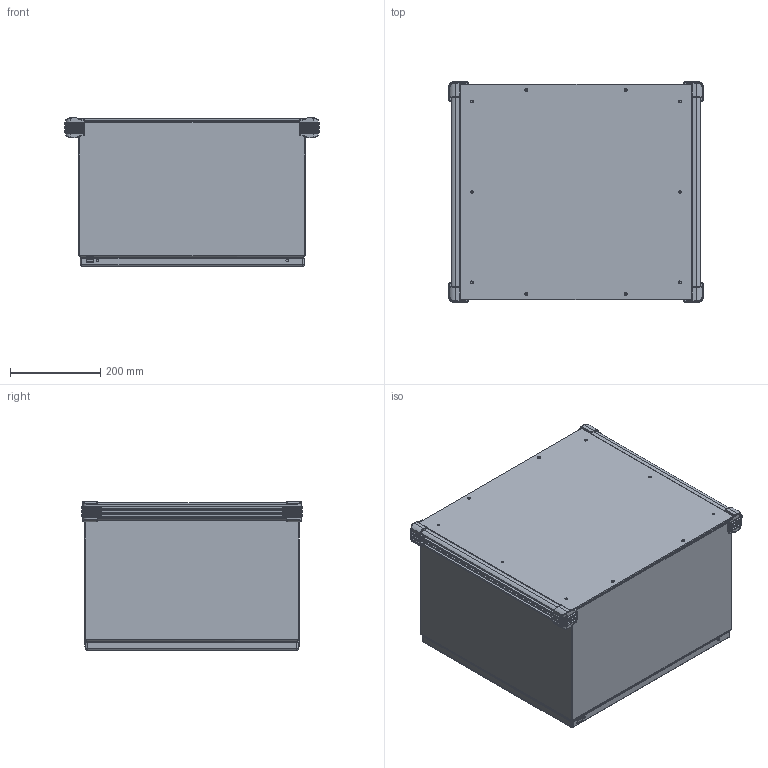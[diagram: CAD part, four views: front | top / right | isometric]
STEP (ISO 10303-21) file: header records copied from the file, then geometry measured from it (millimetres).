
FILE_DESCRIPTION (( 'STEP AP203' ), '1' );
FILE_NAME ('cp475030.STEP', '2012-06-08T18:27:47', ( 'User' ), ( 'Pentair Inc' ), 'SwSTEP 2.0', 'SolidWorks 2010', '' );
FILE_SCHEMA (( 'CONFIG_CONTROL_DESIGN' ));
Length unit declared in the file: inch
Products named in the file (39): 87543027; 89076399; 89076193; 89056623; 87789742_ASSEMBLED; 89061402; 87792578; 87792576; 99416066; 87929507; 87929767; 87929769_Installed on Pin; cp475030; 89061131; 87798766_default; 99401225_Config-Drawing; 87938525_assy; 87938549_fip; 87938501; 87931362_87931362; 99401225; 87938564_87926013; 87921906_After Weld; 64101001; 64201001; 87541994_Installed Height; 87541995; 64202001; 64210001; 64203001; 87927840_87927840; 87932903; 64138001; 89061095; 87789223; 87541671_87541671; 87789176; 87799864; 87789150
Assembly tree (78 placements, depth 4):
  cp475030
    87792578  x6
    99416066  x6
    89061131
      99401225_Config-Drawing  x3
      87798766_default
    87789176  x2
    87543027  x2
    87789742_ASSEMBLED
      89061402  x2
    87792576  x6
    87799864
    89076399  x2
      89056623
      89076193
    87789150  x4
    87929507  x2
      87929769_Installed on Pin
      87929767
    87938525_assy
      64138001  x2
      87932903  x2
      87938549_fip
        87921906_After Weld  x4
        87938501
        87931362_87931362  x2
        99401225
        87938564_87926013
      64101001
        87927840_87927840
        64201001
        87541994_Installed Height
        64202001
        87541995
        64210001
        64203001
    89061095
      87541671_87541671  x10
      87789223
Bounding box: 564.31 x 488.87 x 329.29 mm (x, y, z)
Volume: 3463159.5 mm3; surface area: 3104979.3 mm2
Topology: 73 solids, 73 shells, 4486 faces, 11297 edges, 6938 vertices
Faces by surface type: plane 1839, cylinder 1483, bspline 444, torus 374, cone 294, sphere 52
Entity records: 72502 total; most frequent: CARTESIAN_POINT 21604, ORIENTED_EDGE 9736, DIRECTION 9261, EDGE_CURVE 4868, AXIS2_PLACEMENT_3D 3409, VERTEX_POINT 3004, LINE 2443, VECTOR 2443
